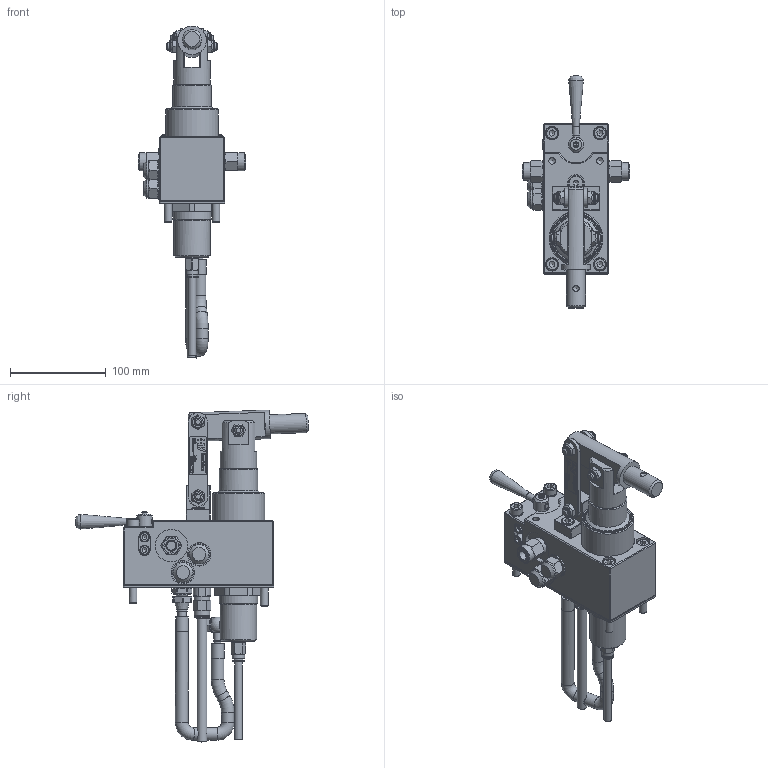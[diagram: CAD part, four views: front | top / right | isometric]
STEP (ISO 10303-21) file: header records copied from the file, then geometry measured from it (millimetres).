
FILE_DESCRIPTION((''),'2;1');
FILE_NAME('G:\HV_HYDRAULIC\AZIENDA_HV_HYDRAULIC\ARCHIVIO_DISEGNI\5_PRODOTTI_FINITI\1_POMPE_MANUALI\6070_PM2V_5-50\6070.6040_PM2V_5-50_a-vb-byB_(cc)_(HV)\6070.6040.stp','2024-03-28T12:39:41',('christian.scardovi'),(''),'Autodesk Inventor 2013','Autodesk Inventor 2013','');
FILE_SCHEMA(('AUTOMOTIVE_DESIGN { 1 0 10303 214 1 1 1 1 }'));
Length unit declared in the file: millimetre
Products named in the file (1): 6070.6040
Bounding box: 112 x 243.06 x 346.66 mm (x, y, z)
Volume: 1033366.5 mm3; surface area: 181019.9 mm2
Topology: 1 solids, 1 shells, 1566 faces, 3867 edges, 2469 vertices
Faces by surface type: plane 852, cylinder 280, cone 228, bspline 159, torus 44, sphere 3
Full cylindrical faces by diameter (mm): 3 x2, 4 x5, 4.917 x2, 5 x10, 5.2 x1, 6 x6, 6.5 x1, 6.647 x2, 7 x1, 7.3 x1, 7.5 x2, 8 x18, 8.2 x1, 8.5 x1, 8.566 x3, 8.917 x2, 9 x3, 10 x9, 10.1 x1, 10.2 x1, 10.5 x2, 11.05 x6, 11.249 x1, 11.445 x1, 11.9 x1, 12 x6, 12.8 x1, 13 x12, 13.3 x5, 13.5 x2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
Entity records: 45936 total; most frequent: CARTESIAN_POINT 11536, ORIENTED_EDGE 6754, DIRECTION 6197, EDGE_CURVE 3377, VERTEX_POINT 2315, AXIS2_PLACEMENT_3D 2189, EDGE_LOOP 2099, VECTOR 1819
